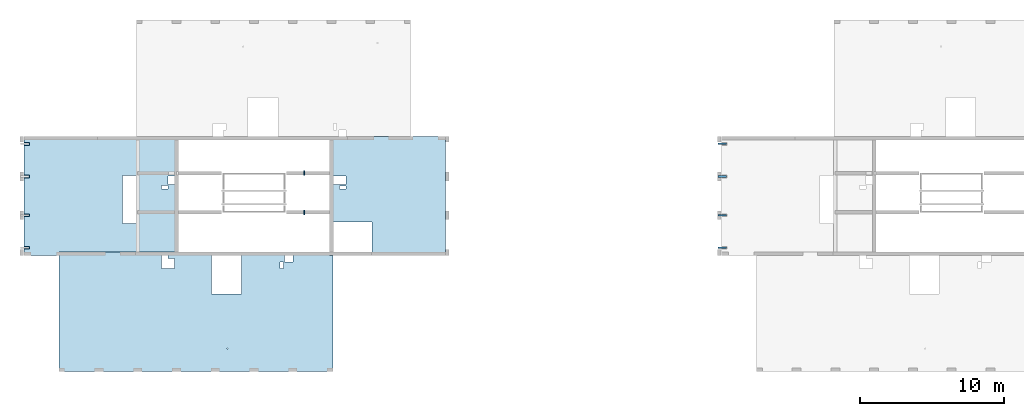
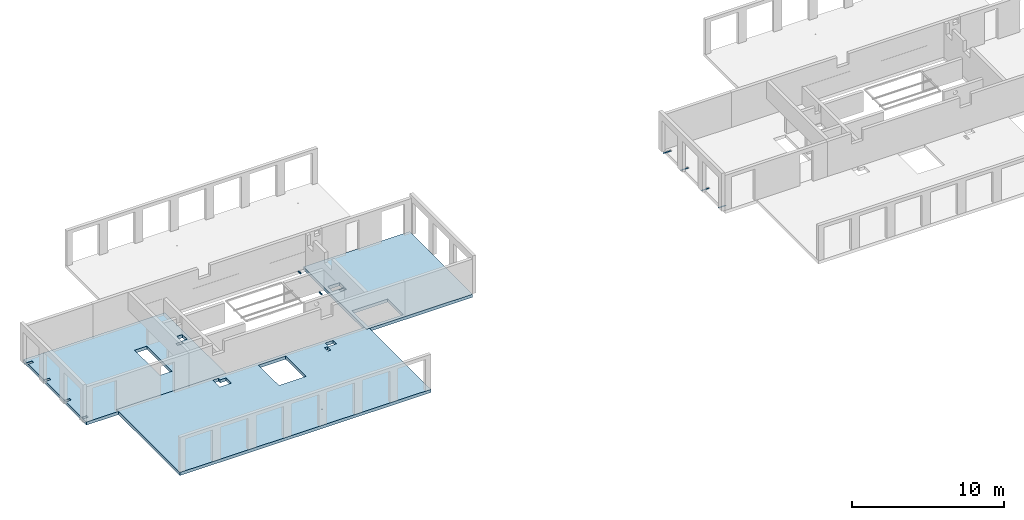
# One storey, part 2 of 6: 6 beams, 3 slabs, 20 openings.
"""IFC2X3 building model written with IfcOpenShell, lengths in millimetres."""

from ifc_helpers import new_model, entity, si_unit, converted_unit, derived_unit, direction, frame, frame_2d, origin, origin_2d_with_axis, place, context, subcontext, project, spatial, polyline, circle_curve, parameter, trimmed, segment, composite_curve, rectangle, circle, outline, extrude, source, transform, mapped, material, layer, layer_set, layer_usage, type_object, type_shapes, element, save


model = new_model("IFC2X3")

# Units and contexts
model_context = context("Model", 3, precision=0.01, world=origin(), true_north=direction((6.12303176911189e-17, 1.0)))
body_context = subcontext(model_context, "Body", "Model", "MODEL_VIEW")
ifc_project = project(units=[si_unit("LENGTHUNIT", "METRE", prefix="MILLI"), si_unit("AREAUNIT", "SQUARE_METRE"), si_unit("VOLUMEUNIT", "CUBIC_METRE"), converted_unit("PLANEANGLEUNIT", "DEGREE", entity("IfcRatioMeasure", 0.0174532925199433), si_unit("PLANEANGLEUNIT", "RADIAN"), dimensions=[0, 0, 0, 0, 0, 0, 0]), si_unit("MASSUNIT", "GRAM", prefix="KILO"), derived_unit("MASSDENSITYUNIT", [(si_unit("MASSUNIT", "GRAM", prefix="KILO"), 1), (si_unit("LENGTHUNIT", "METRE"), -3)]), si_unit("TIMEUNIT", "SECOND"), si_unit("FREQUENCYUNIT", "HERTZ"), si_unit("THERMODYNAMICTEMPERATUREUNIT", "DEGREE_CELSIUS"), derived_unit("THERMALTRANSMITTANCEUNIT", [(si_unit("MASSUNIT", "GRAM", prefix="KILO"), 1), (si_unit("THERMODYNAMICTEMPERATUREUNIT", "KELVIN"), -1), (si_unit("TIMEUNIT", "SECOND"), -3)]), derived_unit("VOLUMETRICFLOWRATEUNIT", [(si_unit("LENGTHUNIT", "METRE"), 3), (si_unit("TIMEUNIT", "SECOND"), -1)]), si_unit("ELECTRICCURRENTUNIT", "AMPERE"), si_unit("ELECTRICVOLTAGEUNIT", "VOLT"), si_unit("POWERUNIT", "WATT"), si_unit("FORCEUNIT", "NEWTON", prefix="KILO"), si_unit("ILLUMINANCEUNIT", "LUX"), si_unit("LUMINOUSFLUXUNIT", "LUMEN"), si_unit("LUMINOUSINTENSITYUNIT", "CANDELA"), derived_unit("USERDEFINED", [(si_unit("MASSUNIT", "GRAM", prefix="KILO"), -1), (si_unit("LENGTHUNIT", "METRE"), -2), (si_unit("TIMEUNIT", "SECOND"), 3), (si_unit("LUMINOUSFLUXUNIT", "LUMEN"), 1)]), derived_unit("LINEARVELOCITYUNIT", [(si_unit("LENGTHUNIT", "METRE"), 1), (si_unit("TIMEUNIT", "SECOND"), -1)]), si_unit("PRESSUREUNIT", "PASCAL"), derived_unit("USERDEFINED", [(si_unit("LENGTHUNIT", "METRE"), -2), (si_unit("MASSUNIT", "GRAM", prefix="KILO"), 1), (si_unit("TIMEUNIT", "SECOND"), -2)])], contexts=[model_context])

# Site, building, storey
site_placement = place(None, origin())
site = spatial("IfcSite", under=ifc_project, at=site_placement, Name="Default", CompositionType="ELEMENT")
building_placement = place(site_placement, origin())
building = spatial("IfcBuilding", under=site, at=building_placement, Name="niet gebruiken", CompositionType="ELEMENT")
storey_placement = place(building_placement, frame((0.0, 0.0, 66160.0)))
storey = spatial("IfcBuildingStorey", under=building, at=storey_placement, Name="22 tweeëntwintigste verdieping", CompositionType="ELEMENT", Elevation=66160.0)

# Beams
ifc_material_1 = material(Name="NLRS_h2_staal")
beam_type_1 = type_object("IfcBeamType", Name="ligger stripstaal RECT_120x10", PredefinedType="BEAM", material=ifc_material_1)
shared_shape_1 = source(origin(), body_context, "Body", "SweptSolid", [
    extrude(rectangle(XDim=599.999999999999, YDim=120.0, at=origin_2d_with_axis()), frame((0.0, 0.0, -5.0), z_axis=(0.0, 0.0, 1.0), x_axis=(-1.0, 0.0, 0.0)), (0.0, 0.0, 1.0), 9.99999999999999),
    extrude(rectangle(XDim=599.999999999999, YDim=120.0, at=origin_2d_with_axis()), frame((0.0, 0.0, -5.0), z_axis=(0.0, 0.0, 1.0), x_axis=(-1.0, 0.0, 0.0)), (0.0, 0.0, 1.0), 9.99999999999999),
])
type_shapes(beam_type_1, [shared_shape_1])
for number, where, name in (
    (1, (75835.0, 42356.0, -115.0), "NLRS_28.11_SF_WPB_stalen ligger stripstaal_gen:ligger stripstaal RECT_120x10"),
    (2, (75835.0, 39656.0, -115.0), "NLRS_28.11_SF_WPB_stalen ligger stripstaal_gen:ligger stripstaal RECT_120x10"),
    (3, (75835.0, 37386.0, -115.0), "NLRS_28.11_SF_WPB_stalen ligger stripstaal_gen:ligger stripstaal RECT_120x10"),
):
    element("IfcBeam", number, at=place(storey_placement, frame(where)), inside=storey, type_object=beam_type_1, material=ifc_material_1, Name=name, ObjectType="ligger stripstaal RECT_120x10", context=body_context, shape_type="MappedRepresentation", body=[
        mapped(shared_shape_1, transform((0.0, 0.0, 0.0), scale=1.0)),
    ])
beam_type_2 = type_object("IfcBeamType", Name="ligger stripstaal RECT_120x10", PredefinedType="BEAM", material=ifc_material_1)
shared_shape_2 = source(origin(), body_context, "Body", "SweptSolid", [
    extrude(rectangle(XDim=120.0, YDim=600.000000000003, at=origin_2d_with_axis()), frame((0.0, 0.0, -5.0), z_axis=(0.0, 0.0, 1.0), x_axis=(0.0, 1.0, 0.0)), (0.0, 0.0, 1.0), 9.99999999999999),
    extrude(rectangle(XDim=120.0, YDim=600.000000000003, at=origin_2d_with_axis()), frame((0.0, 0.0, -5.0), z_axis=(0.0, 0.0, 1.0), x_axis=(0.0, 1.0, 0.0)), (0.0, 0.0, 1.0), 9.99999999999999),
])
type_shapes(beam_type_2, [shared_shape_2])
beam_placement = place(storey_placement, frame((75835.0, 44626.0, -115.0)))
element("IfcBeam", 4, at=beam_placement, inside=storey, type_object=beam_type_2, material=ifc_material_1, Name="NLRS_28.11_SF_WPB_stalen ligger stripstaal_gen:ligger stripstaal RECT_120x10", ObjectType="ligger stripstaal RECT_120x10", context=body_context, shape_type="MappedRepresentation", body=[
    mapped(shared_shape_2, transform((0.0, 0.0, 0.0), scale=1.0)),
])
beam_type_3 = type_object("IfcBeamType", Name="NLRS_28.11_SF_WPB_stalen ligger hoekprofiel ongelijkzijdig_gen:ligger ongelijzijdig hoekprofiel LUEQ_75x50x5", PredefinedType="BEAM")
for number, where, z_axis, x_axis, name in (
    (5, (46737.5, 42431.0, 1605.0), (0.0, 0.0, 1.0), (0.0, 1.0, 0.0), "NLRS_28.11_SF_WPB_stalen ligger hoekprofiel ongelijkzijdig_gen:ligger ongelijzijdig hoekprofiel LUEQ_75x50x5"),
    (6, (46737.5, 39681.0, 1605.0), (0.0, 0.0, 1.0), (0.0, 1.0, 0.0), "NLRS_28.11_SF_WPB_stalen ligger hoekprofiel ongelijkzijdig_gen:ligger ongelijzijdig hoekprofiel LUEQ_75x50x5"),
):
    element("IfcBeam", number, at=place(storey_placement, frame(where, z_axis=z_axis, x_axis=x_axis)), inside=storey, type_object=beam_type_3, material=ifc_material_1, Name=name, ObjectType="NLRS_28.11_SF_WPB_stalen ligger hoekprofiel ongelijkzijdig_gen:ligger ongelijzijdig hoekprofiel LUEQ_75x50x5", context=body_context, shape_type="SweptSolid", body=[
        extrude(outline(composite_curve([segment(polyline([(-31.1666666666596, -27.1666666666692), (18.8333333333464, -27.1666666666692)]), True, "CONTINUOUS"), segment(polyline([(18.8333333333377, -27.1666666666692), (18.8333333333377, 47.8333333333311)]), True, "CONTINUOUS"), segment(polyline([(18.8333333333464, 47.8333333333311), (17.3333333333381, 47.8333333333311)]), True, "CONTINUOUS"), segment(trimmed(circle_curve(frame_2d((17.3333333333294, 44.3333333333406), x_axis=(0.0, 1.0)), 3.49999999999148), [parameter(0.0)], [parameter(90.0000000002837)], True, "PARAMETER"), True, "CONTINUOUS"), segment(polyline([(13.8333333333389, 44.3333333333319), (13.8333333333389, -15.6666666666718)]), True, "CONTINUOUS"), segment(trimmed(circle_curve(frame_2d((7.33333333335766, -15.6666666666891), x_axis=(1.0, 0.0)), 6.49999999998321), [parameter(269.999999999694)], [parameter(0.0)], True, "PARAMETER"), False, "CONTINUOUS"), segment(polyline([(7.33333333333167, -22.1666666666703), (-27.6666666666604, -22.1666666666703)]), True, "CONTINUOUS"), segment(trimmed(circle_curve(frame_2d((-27.666666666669, -25.6666666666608), x_axis=(0.0, 1.0)), 3.49999999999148), [parameter(0.0)], [parameter(90.0000000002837)], True, "PARAMETER"), True, "CONTINUOUS"), segment(polyline([(-31.1666666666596, -25.6666666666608), (-31.1666666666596, -27.1666666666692)]), True, "CONTINUOUS")], self_intersect=False)), frame((6.09602216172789e-07, 27.1666666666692, 18.8333333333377), z_axis=(1.0, 0.0, 0.0), x_axis=(0.0, 0.0, -1.0)), (0.0, 0.0, 1.0), 329.999999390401),
    ])

# Slab, openings
ifc_material_2 = material(Name="NLRS_f2_beton ihwg")
ifc_layer = layer(ifc_material_2, 250.0)
ifc_layer_set = layer_set([ifc_layer], Name="Floor:NLRS_23.21_FL_beton ihwg d=250_gen")
ifc_layer_usage_1 = layer_usage(ifc_layer_set, "AXIS3", "POSITIVE", 0.0)
slab_1_placement = place(storey_placement, frame((29600.0, 28756.0, -340.0)))
slab_1 = element("IfcSlab", 7, at=slab_1_placement, inside=storey, material=ifc_layer_usage_1, Name="Floor:NLRS_23.21_FL_beton ihwg d=250_gen", ObjectType="Floor:NLRS_23.21_FL_beton ihwg d=250_gen", PredefinedType="FLOOR", context=body_context, shape_type="SweptSolid", body=[
    extrude(rectangle(XDim=8350.00000000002, YDim=19099.9999999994, at=frame_2d((0.0, 0.0), x_axis=(0.0, 1.0))), frame((9550.0, 4175.0, 250.0), z_axis=(0.0, 0.0, -1.0), x_axis=(-1.0, 0.0, 0.0)), (0.0, 0.0, 1.0), 250.000000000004),
])
opening_1_placement = place(storey_placement, frame((29600.0, 28756.0, -340.0)))
element("IfcOpeningElement", 8, at=opening_1_placement, cuts=slab_1, ObjectType="Opening", context=body_context, shape_type="SweptSolid", body=[
    extrude(circle(Radius=37.5, at=frame_2d((-2200.0, -2575.0), x_axis=(1.0, 0.0))), frame((9550.0, 4175.0, 250.0), z_axis=(0.0, 0.0, -1.0), x_axis=(-1.0, 0.0, 0.0)), (0.0, 0.0, 1.0), 250.000000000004),
])
opening_2_placement = place(slab_1_placement, origin())
element("IfcOpeningElement", 9, at=opening_2_placement, cuts=slab_1, ObjectType="Opening", context=body_context, shape_type="SweptSolid", body=[
    extrude(rectangle(XDim=900.000000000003, YDim=700.000000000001, at=origin_2d_with_axis()), frame((7625.0, 7550.0, 0.0), z_axis=(0.0, 0.0, 1.0), x_axis=(-1.0, 0.0, 0.0)), (0.0, 0.0, 1.0), 250.000000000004),
])
opening_3_placement = place(slab_1_placement, origin())
element("IfcOpeningElement", 10, at=opening_3_placement, cuts=slab_1, ObjectType="Opening", context=body_context, shape_type="SweptSolid", body=[
    extrude(rectangle(XDim=200.000000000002, YDim=450.000000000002, at=origin_2d_with_axis()), frame((7400.0, 8000.0, 0.0), z_axis=(0.0, 0.0, 1.0), x_axis=(0.0, -1.0, 0.0)), (0.0, 0.0, 1.0), 250.000000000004),
])
opening_4_placement = place(slab_1_placement, origin())
element("IfcOpeningElement", 11, at=opening_4_placement, cuts=slab_1, ObjectType="Opening", context=body_context, shape_type="SweptSolid", body=[
    extrude(rectangle(XDim=400.000000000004, YDim=199.999999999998, at=origin_2d_with_axis()), frame((-2230.0, 15870.0, 220.0)), (0.0, 0.0, 1.0), 30.0000000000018),
])
opening_5_placement = place(slab_1_placement, origin())
element("IfcOpeningElement", 12, at=opening_5_placement, cuts=slab_1, ObjectType="Opening", context=body_context, shape_type="SweptSolid", body=[
    extrude(rectangle(XDim=199.999999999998, YDim=400.000000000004, at=origin_2d_with_axis()), frame((-2230.0, 13600.0, 220.0), z_axis=(0.0, 0.0, 1.0), x_axis=(0.0, -1.0, 0.0)), (0.0, 0.0, 1.0), 30.0000000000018),
])
opening_6_placement = place(slab_1_placement, origin())
element("IfcOpeningElement", 13, at=opening_6_placement, cuts=slab_1, ObjectType="Opening", context=body_context, shape_type="SweptSolid", body=[
    extrude(rectangle(XDim=199.999999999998, YDim=400.000000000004, at=origin_2d_with_axis()), frame((-2230.0, 10900.0, 220.0), z_axis=(0.0, 0.0, 1.0), x_axis=(0.0, -1.0, 0.0)), (0.0, 0.0, 1.0), 30.0000000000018),
])
opening_7_placement = place(slab_1_placement, origin())
element("IfcOpeningElement", 14, at=opening_7_placement, cuts=slab_1, ObjectType="Opening", context=body_context, shape_type="SweptSolid", body=[
    extrude(rectangle(XDim=200.000000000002, YDim=400.000000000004, at=origin_2d_with_axis()), frame((-2230.0, 8630.0, 220.0), z_axis=(0.0, 0.0, 1.0), x_axis=(0.0, -1.0, 0.0)), (0.0, 0.0, 1.0), 30.0000000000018),
])
opening_8_placement = place(slab_1_placement, origin())
element("IfcOpeningElement", 15, at=opening_8_placement, cuts=slab_1, ObjectType="Opening", context=body_context, shape_type="SweptSolid", body=[
    extrude(rectangle(XDim=450.000000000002, YDim=600.000000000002, at=origin_2d_with_axis()), frame((16030.0, 7875.0, 0.0), z_axis=(0.0, 0.0, 1.0), x_axis=(0.0, 1.0, 0.0)), (0.0, 0.0, 1.0), 250.000000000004),
])
opening_9_placement = place(slab_1_placement, origin())
element("IfcOpeningElement", 16, at=opening_9_placement, cuts=slab_1, ObjectType="Opening", context=body_context, shape_type="SweptSolid", body=[
    extrude(rectangle(XDim=220.000000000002, YDim=450.000000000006, at=origin_2d_with_axis()), frame((15540.0, 7425.0, 0.0)), (0.0, 0.0, 1.0), 250.000000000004),
])
opening_10_placement = place(slab_1_placement, frame((11690.0, 6750.0, 250.0)))
element("IfcOpeningElement", 17, at=opening_10_placement, cuts=slab_1, Name="Floor:NLRS_23.21_FL_beton ihwg d=250_gen:2", ObjectType="Opening", context=body_context, shape_type="SweptSolid", body=[
    extrude(rectangle(XDim=2070.00000000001, YDim=2700.0, at=origin_2d_with_axis()), frame((0.0, 0.0, 0.0), z_axis=(0.0, 0.0, -1.0), x_axis=(-1.0, 0.0, 0.0)), (0.0, 0.0, 1.0), 250.000000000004),
])

ifc_layer_usage_2 = layer_usage(ifc_layer_set, "AXIS3", "POSITIVE", 0.0)
slab_2_placement = place(storey_placement, frame((27170.0, 36856.0, -340.0)))
slab_2 = element("IfcSlab", 18, at=slab_2_placement, inside=storey, material=ifc_layer_usage_2, Name="Floor:NLRS_23.21_FL_beton ihwg d=250_gen", ObjectType="Floor:NLRS_23.21_FL_beton ihwg d=250_gen", PredefinedType="FLOOR", context=body_context, shape_type="SweptSolid", body=[
    extrude(outline(polyline([(5377.50000000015, -4150.0), (5377.50000000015, 4150.0), (-5377.50000000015, 4150.0), (-5377.50000000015, -3900.0), (2947.50000000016, -3900.0), (2947.50000000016, -4150.0), (5377.50000000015, -4150.0)])), frame((5377.50000000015, 4150.0, 250.0), z_axis=(0.0, 0.0, -1.0), x_axis=(-1.0, 0.0, 0.0)), (0.0, 0.0, 1.0), 250.000000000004),
])
opening_11_placement = place(slab_2_placement, origin())
element("IfcOpeningElement", 19, at=opening_11_placement, cuts=slab_2, ObjectType="Opening", context=body_context, shape_type="SweptSolid", body=[
    extrude(rectangle(XDim=200.000000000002, YDim=400.000000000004, at=origin_2d_with_axis()), frame((200.0, 530.0, 220.0), z_axis=(0.0, 0.0, 1.0), x_axis=(0.0, -1.0, 0.0)), (0.0, 0.0, 1.0), 30.0000000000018),
])
opening_12_placement = place(slab_2_placement, origin())
element("IfcOpeningElement", 20, at=opening_12_placement, cuts=slab_2, ObjectType="Opening", context=body_context, shape_type="SweptSolid", body=[
    extrude(rectangle(XDim=199.999999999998, YDim=400.000000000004, at=origin_2d_with_axis()), frame((200.0, 2800.0, 220.0), z_axis=(0.0, 0.0, 1.0), x_axis=(0.0, -1.0, 0.0)), (0.0, 0.0, 1.0), 30.0000000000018),
])
opening_13_placement = place(slab_2_placement, origin())
element("IfcOpeningElement", 21, at=opening_13_placement, cuts=slab_2, ObjectType="Opening", context=body_context, shape_type="SweptSolid", body=[
    extrude(rectangle(XDim=199.999999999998, YDim=400.000000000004, at=origin_2d_with_axis()), frame((200.0, 5500.0, 220.0), z_axis=(0.0, 0.0, 1.0), x_axis=(0.0, -1.0, 0.0)), (0.0, 0.0, 1.0), 30.0000000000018),
])
opening_14_placement = place(slab_2_placement, origin())
element("IfcOpeningElement", 22, at=opening_14_placement, cuts=slab_2, ObjectType="Opening", context=body_context, shape_type="SweptSolid", body=[
    extrude(rectangle(XDim=400.000000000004, YDim=199.999999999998, at=origin_2d_with_axis()), frame((200.0, 7770.0, 220.0)), (0.0, 0.0, 1.0), 30.0000000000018),
])
opening_15_placement = place(slab_2_placement, origin())
element("IfcOpeningElement", 23, at=opening_15_placement, cuts=slab_2, ObjectType="Opening", context=body_context, shape_type="SweptSolid", body=[
    extrude(rectangle(XDim=450.000000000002, YDim=600.000000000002, at=origin_2d_with_axis()), frame((10280.0002779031, 5230.00001984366, 0.0), z_axis=(0.0, 0.0, 1.0), x_axis=(-1.0, 0.0, 0.0)), (0.0, 0.0, 1.0), 250.000000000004),
])
opening_16_placement = place(slab_2_placement, origin())
element("IfcOpeningElement", 24, at=opening_16_placement, cuts=slab_2, ObjectType="Opening", context=body_context, shape_type="SweptSolid", body=[
    extrude(rectangle(XDim=230.0, YDim=450.000000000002, at=origin_2d_with_axis()), frame((9830.00008659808, 4745.00022702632, 0.0), z_axis=(0.0, 0.0, 1.0), x_axis=(0.0, -1.0, 0.0)), (0.0, 0.0, 1.0), 250.000000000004),
])
opening_17_placement = place(slab_2_placement, frame((7337.24999999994, 3900.0, 250.0)))
element("IfcOpeningElement", 25, at=opening_17_placement, cuts=slab_2, Name="Floor:NLRS_23.21_FL_beton ihwg d=250_gen:2", ObjectType="Opening", context=body_context, shape_type="SweptSolid", body=[
    extrude(rectangle(XDim=929.500000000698, YDim=3320.00000000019, at=origin_2d_with_axis()), frame((0.0, 0.0, 0.0), z_axis=(0.0, 0.0, -1.0), x_axis=(1.0, 0.0, 0.0)), (0.0, 0.0, 1.0), 250.000000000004),
])

ifc_layer_usage_3 = layer_usage(ifc_layer_set, "AXIS3", "POSITIVE", 0.0)
slab_3_placement = place(storey_placement, frame((48475.0, 36856.0, -340.0)))
slab_3 = element("IfcSlab", 26, at=slab_3_placement, inside=storey, material=ifc_layer_usage_3, Name="Floor:NLRS_23.21_FL_beton ihwg d=250_gen", ObjectType="Floor:NLRS_23.21_FL_beton ihwg d=250_gen", PredefinedType="FLOOR", context=body_context, shape_type="SweptSolid", body=[
    extrude(rectangle(XDim=8299.99999999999, YDim=8074.99999999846, at=frame_2d((0.0, 0.0), x_axis=(0.0, -1.0))), frame((4037.49999999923, 4150.0, 250.0), z_axis=(0.0, 0.0, -1.0), x_axis=(-1.0, 0.0, 0.0)), (0.0, 0.0, 1.0), 250.000000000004),
])
opening_18_placement = place(slab_3_placement, origin())
element("IfcOpeningElement", 27, at=opening_18_placement, cuts=slab_3, ObjectType="Opening", context=body_context, shape_type="SweptSolid", body=[
    extrude(rectangle(XDim=900.000000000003, YDim=600.000000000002, at=origin_2d_with_axis()), frame((700.0, 5230.0, 0.0), z_axis=(0.0, 0.0, 1.0), x_axis=(-1.0, 0.0, 0.0)), (0.0, 0.0, 1.0), 250.000000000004),
])
opening_19_placement = place(slab_3_placement, origin())
element("IfcOpeningElement", 28, at=opening_19_placement, cuts=slab_3, ObjectType="Opening", context=body_context, shape_type="SweptSolid", body=[
    extrude(rectangle(XDim=220.000000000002, YDim=450.000000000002, at=origin_2d_with_axis()), frame((925.0, 4740.0, 0.0), z_axis=(0.0, 0.0, 1.0), x_axis=(0.0, -1.0, 0.0)), (0.0, 0.0, 1.0), 250.000000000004),
])
opening_20_placement = place(slab_3_placement, frame((1600.0, 1285.0, 250.0)))
element("IfcOpeningElement", 29, at=opening_20_placement, cuts=slab_3, Name="Floor:NLRS_23.21_FL_beton ihwg d=250_gen:2", ObjectType="Opening", context=body_context, shape_type="SweptSolid", body=[
    extrude(rectangle(XDim=2700.00000000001, YDim=2070.0, at=origin_2d_with_axis()), frame((0.0, 0.0, 0.0), z_axis=(0.0, 0.0, -1.0), x_axis=(1.0, 0.0, 0.0)), (0.0, 0.0, 1.0), 250.000000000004),
])

save(model, "model.ifc")
